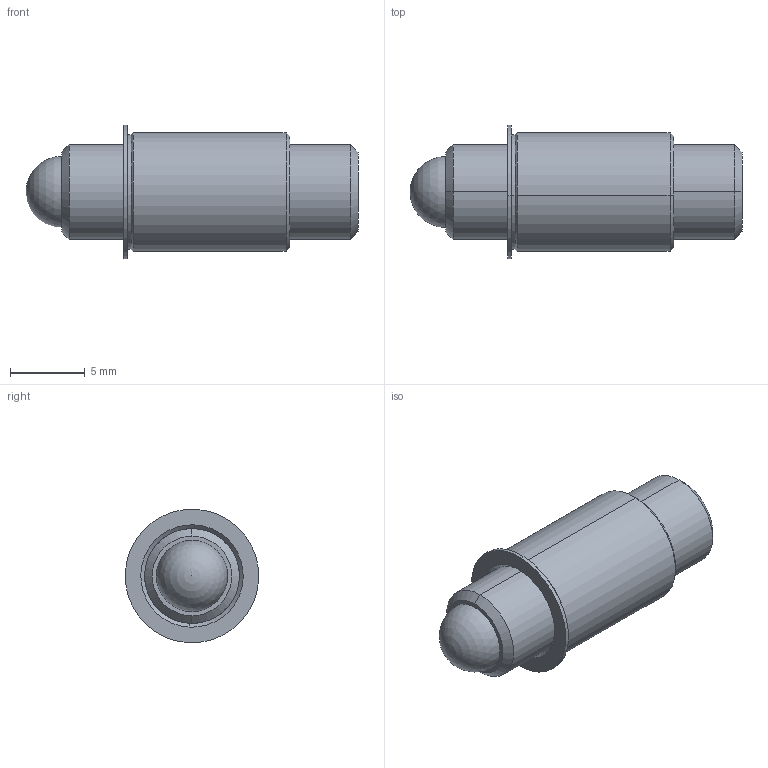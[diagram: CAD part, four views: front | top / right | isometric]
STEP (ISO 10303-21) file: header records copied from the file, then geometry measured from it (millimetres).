
FILE_DESCRIPTION (( 'STEP AP214' ), '1' );
FILE_NAME ('TSB250-80-875_437-AA.STEP', '2013-03-14T12:40:50', ( 'workpc' ), ( 'Microsoft' ), 'SwSTEP 2.0', 'SolidWorks 2013', '' );
FILE_SCHEMA (( 'AUTOMOTIVE_DESIGN' ));
Length unit declared in the file: inch
Products named in the file (1): TSB250-80-875_437-AA
Bounding box: 22.23 x 8.93 x 8.93 mm (x, y, z)
Surface area: 857.6 mm2 (no closed solid volume)
Topology: 0 solids, 3 shells, 33 faces, 77 edges, 49 vertices
Faces by surface type: cone 12, plane 11, cylinder 8, sphere 2
Entity records: 1358 total; most frequent: DIRECTION 174, CARTESIAN_POINT 152, ORIENTED_EDGE 132, EDGE_CURVE 72, AXIS2_PLACEMENT_3D 68, VERTEX_POINT 46, VECTOR 38, EDGE_LOOP 38
